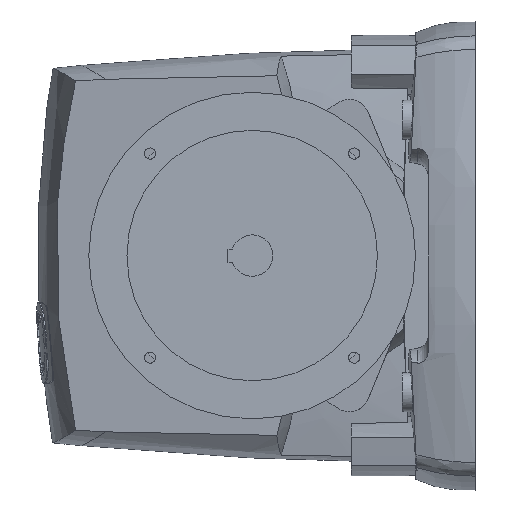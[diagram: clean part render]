
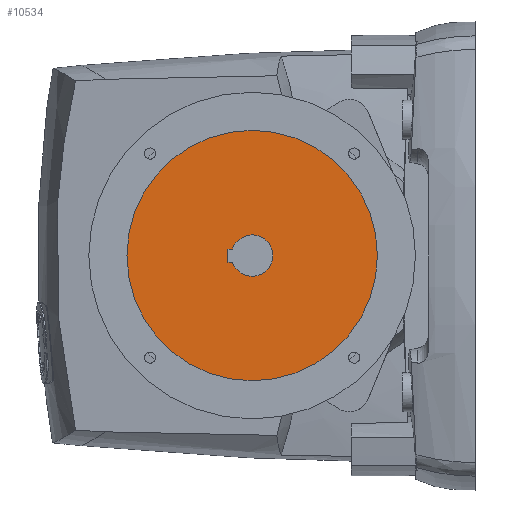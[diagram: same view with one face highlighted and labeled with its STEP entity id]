
A CAD part, left-side view. The second image highlights one B-rep face of the part: STEP entity #10534.
In plain terms, the highlighted planar face has unit normal (-1, 0, 0).
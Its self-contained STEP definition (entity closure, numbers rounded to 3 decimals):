
#122=CARTESIAN_POINT('',(-444.1,71.934,186.364));
#123=DIRECTION('',(-1.,0.,0.));
#124=DIRECTION('',(0.,1.,0.));
#125=AXIS2_PLACEMENT_3D('',#122,#123,#124);
#135=CARTESIAN_POINT('',(-444.1,71.934,186.364));
#136=DIRECTION('',(1.,0.,0.));
#137=DIRECTION('',(0.,1.,0.));
#138=AXIS2_PLACEMENT_3D('',#135,#136,#137);
#140=DIRECTION('',(0.,1.,0.));
#141=VECTOR('',#140,4.272);
#142=CARTESIAN_POINT('',(-444.1,89.962,192.364));
#143=LINE('',#142,#141);
#144=DIRECTION('',(0.,0.,-1.));
#145=VECTOR('',#144,12.);
#146=CARTESIAN_POINT('',(-444.1,94.234,192.364));
#147=LINE('',#146,#145);
#148=DIRECTION('',(0.,-1.,0.));
#149=VECTOR('',#148,4.272);
#150=CARTESIAN_POINT('',(-444.1,94.234,180.364));
#151=LINE('',#150,#149);
#152=CARTESIAN_POINT('',(-444.1,71.934,186.364));
#153=DIRECTION('',(-1.,0.,0.));
#154=DIRECTION('',(0.,0.949,-0.316));
#155=AXIS2_PLACEMENT_3D('',#152,#153,#154);
#10224=CARTESIAN_POINT('',(-444.1,186.934,
186.364));
#10226=VERTEX_POINT('',#10224);
#10232=CARTESIAN_POINT('',(-444.1,-43.066,
186.364));
#10234=VERTEX_POINT('',#10232);
#10264=CARTESIAN_POINT('',(-444.1,89.962,
192.364));
#10265=CARTESIAN_POINT('',(-444.1,94.234,
192.364));
#10266=VERTEX_POINT('',#10264);
#10267=VERTEX_POINT('',#10265);
#10268=CARTESIAN_POINT('',(-444.1,94.234,
180.364));
#10269=VERTEX_POINT('',#10268);
#10270=CARTESIAN_POINT('',(-444.1,89.962,
180.364));
#10271=VERTEX_POINT('',#10270);
#10515=CARTESIAN_POINT('',(-444.1,71.934,
186.364));
#10516=DIRECTION('',(-1.,0.,0.));
#10517=DIRECTION('',(0.,-1.,0.));
#10518=AXIS2_PLACEMENT_3D('',#10515,#10516,#10517);
#10519=PLANE('',#10518);
#10520=ORIENTED_EDGE('',*,*,#10510,.T.);
#10521=ORIENTED_EDGE('',*,*,#10494,.F.);
#10522=EDGE_LOOP('',(#10520,#10521));
#10523=FACE_OUTER_BOUND('',#10522,.F.);
#10525=ORIENTED_EDGE('',*,*,#10524,.T.);
#10527=ORIENTED_EDGE('',*,*,#10526,.T.);
#10529=ORIENTED_EDGE('',*,*,#10528,.T.);
#10531=ORIENTED_EDGE('',*,*,#10530,.T.);
#10532=EDGE_LOOP('',(#10525,#10527,#10529,#10531));
#10533=FACE_BOUND('',#10532,.F.);
#10534=ADVANCED_FACE('',(#10523,#10533),#10519,.T.);
#126=CIRCLE('',#125,115.);
#139=CIRCLE('',#138,115.);
#156=CIRCLE('',#155,19.);
#10494=EDGE_CURVE('',#10226,#10234,#126,.T.);
#10510=EDGE_CURVE('',#10226,#10234,#139,.T.);
#10524=EDGE_CURVE('',#10266,#10267,#143,.T.);
#10526=EDGE_CURVE('',#10267,#10269,#147,.T.);
#10528=EDGE_CURVE('',#10269,#10271,#151,.T.);
#10530=EDGE_CURVE('',#10271,#10266,#156,.T.);
